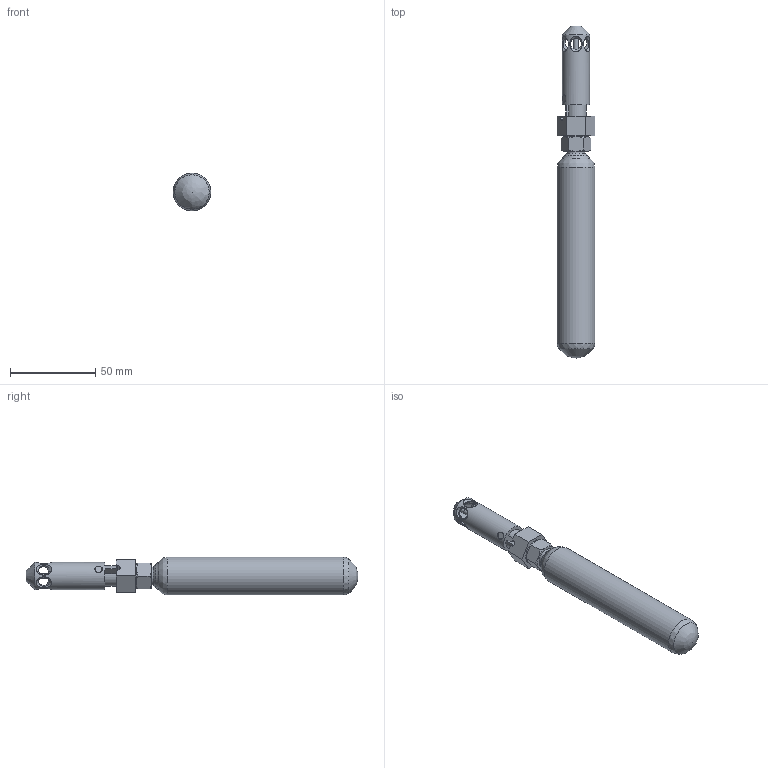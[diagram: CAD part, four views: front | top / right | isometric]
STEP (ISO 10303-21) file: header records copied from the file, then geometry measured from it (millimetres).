
FILE_DESCRIPTION(/* description */ (''),/* implementation_level */ '2;1');
FILE_NAME(/* name */ '40-056-20-68182-00 - AMFE - cylinder size 0.stp',/* time_stamp */ '2025-03-26T16:29:26+01:00',/* author */ ('ASc'),/* organization */ (''),/* preprocessor_version */ 'ST-DEVELOPER v19.2',/* originating_system */ 'Autodesk Inventor 2023',/* authorisation */ '');
FILE_SCHEMA (('AUTOMOTIVE_DESIGN { 1 0 10303 214 3 1 1 }'));
Length unit declared in the file: millimetre
Products named in the file (1): 40-056-20-68182-00_Vereinfachen_1
Bounding box: 22.1 x 194.4 x 22.1 mm (x, y, z)
Volume: 56722.7 mm3; surface area: 13886.9 mm2
Topology: 1 solids, 1 shells, 78 faces, 242 edges, 161 vertices
Faces by surface type: plane 29, cone 25, cylinder 17, bspline 3, torus 2, sphere 2
Full cylindrical faces by diameter (mm): 2.9 x1, 3 x1, 6.5 x6, 11 x1, 12 x1, 12.5 x1, 15 x1, 16 x1, 22.102 x1
Entity records: 3402 total; most frequent: CARTESIAN_POINT 1126, ORIENTED_EDGE 476, DIRECTION 417, EDGE_CURVE 238, AXIS2_PLACEMENT_3D 166, VERTEX_POINT 161, EDGE_LOOP 95, LINE 85
